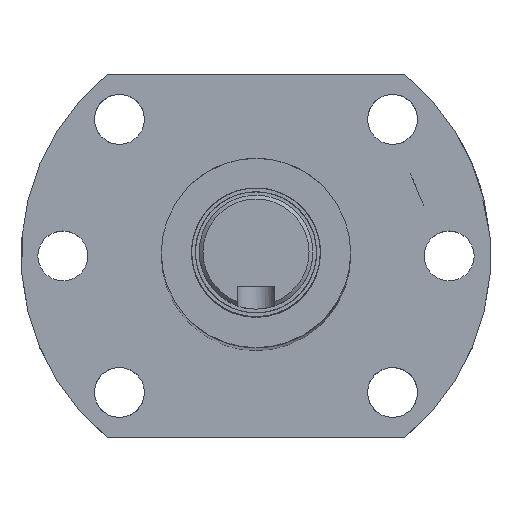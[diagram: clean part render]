
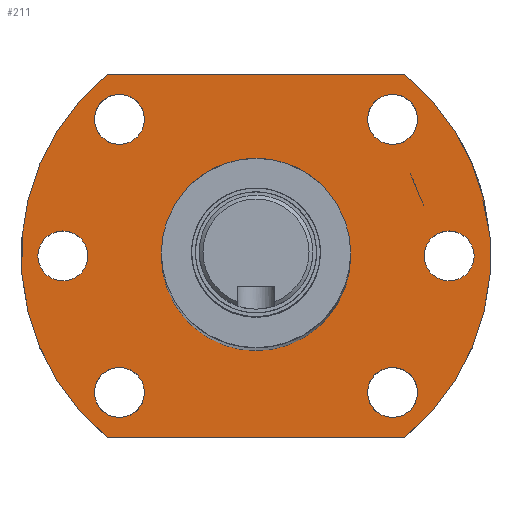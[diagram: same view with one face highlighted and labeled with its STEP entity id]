
A CAD part, top view. The second image highlights one B-rep face of the part: STEP entity #211.
In plain terms, the highlighted planar face has unit normal (0, 0, 1).
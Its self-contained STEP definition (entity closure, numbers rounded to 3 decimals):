
#125=FACE_BOUND('',#319,.T.);
#126=FACE_BOUND('',#320,.T.);
#127=FACE_BOUND('',#321,.T.);
#128=FACE_BOUND('',#322,.T.);
#129=FACE_BOUND('',#323,.T.);
#130=FACE_BOUND('',#324,.T.);
#131=FACE_BOUND('',#325,.T.);
#132=FACE_BOUND('',#326,.T.);
#211=ADVANCED_FACE('',(#125,#126,#127,#128,#129,#130,#131,#132),#246,.T.);
#246=PLANE('',#845);
#319=EDGE_LOOP('',(#517,#518,#519,#520));
#320=EDGE_LOOP('',(#521));
#321=EDGE_LOOP('',(#522));
#322=EDGE_LOOP('',(#523));
#323=EDGE_LOOP('',(#524));
#324=EDGE_LOOP('',(#525));
#325=EDGE_LOOP('',(#526));
#326=EDGE_LOOP('',(#527));
#385=CIRCLE('',#835,31.);
#386=CIRCLE('',#837,31.);
#387=CIRCLE('',#838,3.3);
#388=CIRCLE('',#839,3.3);
#389=CIRCLE('',#840,3.3);
#390=CIRCLE('',#841,12.5);
#391=CIRCLE('',#842,3.3);
#392=CIRCLE('',#843,3.3);
#393=CIRCLE('',#844,3.3);
#517=ORIENTED_EDGE('',*,*,#701,.F.);
#518=ORIENTED_EDGE('',*,*,#699,.F.);
#519=ORIENTED_EDGE('',*,*,#702,.T.);
#520=ORIENTED_EDGE('',*,*,#703,.F.);
#521=ORIENTED_EDGE('',*,*,#704,.T.);
#522=ORIENTED_EDGE('',*,*,#705,.T.);
#523=ORIENTED_EDGE('',*,*,#706,.T.);
#524=ORIENTED_EDGE('',*,*,#707,.T.);
#525=ORIENTED_EDGE('',*,*,#708,.T.);
#526=ORIENTED_EDGE('',*,*,#709,.T.);
#527=ORIENTED_EDGE('',*,*,#710,.T.);
#615=VERTEX_POINT('',#4496);
#618=VERTEX_POINT('',#4501);
#620=VERTEX_POINT('',#4564);
#621=VERTEX_POINT('',#4566);
#622=VERTEX_POINT('',#4569);
#623=VERTEX_POINT('',#4571);
#624=VERTEX_POINT('',#4573);
#625=VERTEX_POINT('',#4575);
#626=VERTEX_POINT('',#4577);
#627=VERTEX_POINT('',#4579);
#628=VERTEX_POINT('',#4581);
#699=EDGE_CURVE('',#618,#615,#385,.T.);
#701=EDGE_CURVE('',#615,#620,#750,.T.);
#702=EDGE_CURVE('',#618,#621,#751,.T.);
#703=EDGE_CURVE('',#620,#621,#386,.T.);
#704=EDGE_CURVE('',#622,#622,#387,.T.);
#705=EDGE_CURVE('',#623,#623,#388,.T.);
#706=EDGE_CURVE('',#624,#624,#389,.T.);
#707=EDGE_CURVE('',#625,#625,#390,.T.);
#708=EDGE_CURVE('',#626,#626,#391,.T.);
#709=EDGE_CURVE('',#627,#627,#392,.T.);
#710=EDGE_CURVE('',#628,#628,#393,.T.);
#750=LINE('',#4563,#778);
#751=LINE('',#4565,#779);
#778=VECTOR('',#1004,1.);
#779=VECTOR('',#1005,1.);
#835=AXIS2_PLACEMENT_3D('',#4502,#1000,#1001);
#837=AXIS2_PLACEMENT_3D('',#4567,#1006,#1007);
#838=AXIS2_PLACEMENT_3D('',#4568,#1008,#1009);
#839=AXIS2_PLACEMENT_3D('',#4570,#1010,#1011);
#840=AXIS2_PLACEMENT_3D('',#4572,#1012,#1013);
#841=AXIS2_PLACEMENT_3D('',#4574,#1014,#1015);
#842=AXIS2_PLACEMENT_3D('',#4576,#1016,#1017);
#843=AXIS2_PLACEMENT_3D('',#4578,#1018,#1019);
#844=AXIS2_PLACEMENT_3D('',#4580,#1020,#1021);
#845=AXIS2_PLACEMENT_3D('',#4582,#1022,#1023);
#1000=DIRECTION('',(0.,0.,-1.));
#1001=DIRECTION('',(1.,0.,0.));
#1004=DIRECTION('',(-1.,0.,0.));
#1005=DIRECTION('',(-1.,0.,0.));
#1006=DIRECTION('',(0.,0.,-1.));
#1007=DIRECTION('',(1.,0.,0.));
#1008=DIRECTION('',(0.,0.,-1.));
#1009=DIRECTION('',(0.707,0.707,0.));
#1010=DIRECTION('',(0.,0.,-1.));
#1011=DIRECTION('',(-1.,0.,0.));
#1012=DIRECTION('',(0.,0.,-1.));
#1013=DIRECTION('',(0.707,-0.707,0.));
#1014=DIRECTION('',(0.,0.,-1.));
#1015=DIRECTION('',(1.,0.,0.));
#1016=DIRECTION('',(0.,0.,-1.));
#1017=DIRECTION('',(1.,0.,0.));
#1018=DIRECTION('',(0.,0.,-1.));
#1019=DIRECTION('',(-0.707,0.707,0.));
#1020=DIRECTION('',(0.,0.,-1.));
#1021=DIRECTION('',(-0.707,-0.707,0.));
#1022=DIRECTION('',(0.,0.,1.));
#1023=DIRECTION('',(1.,0.,0.));
#4496=CARTESIAN_POINT('',(19.621,-24.,0.));
#4501=CARTESIAN_POINT('',(19.621,24.,0.));
#4502=CARTESIAN_POINT('',(0.,0.,0.));
#4563=CARTESIAN_POINT('',(0.,-24.,0.));
#4564=CARTESIAN_POINT('',(-19.621,-24.,0.));
#4565=CARTESIAN_POINT('',(0.,24.,0.));
#4566=CARTESIAN_POINT('',(-19.621,24.,0.));
#4567=CARTESIAN_POINT('',(0.,0.,0.));
#4568=CARTESIAN_POINT('',(-18.031,-18.031,0.));
#4569=CARTESIAN_POINT('',(-15.698,-15.698,0.));
#4570=CARTESIAN_POINT('',(25.5,0.,0.));
#4571=CARTESIAN_POINT('',(22.2,0.,0.));
#4572=CARTESIAN_POINT('',(-18.031,18.031,0.));
#4573=CARTESIAN_POINT('',(-15.698,15.698,0.));
#4574=CARTESIAN_POINT('',(0.,0.,0.));
#4575=CARTESIAN_POINT('',(12.5,0.,0.));
#4576=CARTESIAN_POINT('',(-25.5,0.,0.));
#4577=CARTESIAN_POINT('',(-22.2,0.,0.));
#4578=CARTESIAN_POINT('',(18.031,-18.031,0.));
#4579=CARTESIAN_POINT('',(15.698,-15.698,0.));
#4580=CARTESIAN_POINT('',(18.031,18.031,0.));
#4581=CARTESIAN_POINT('',(15.698,15.698,0.));
#4582=CARTESIAN_POINT('',(0.,0.,0.));
